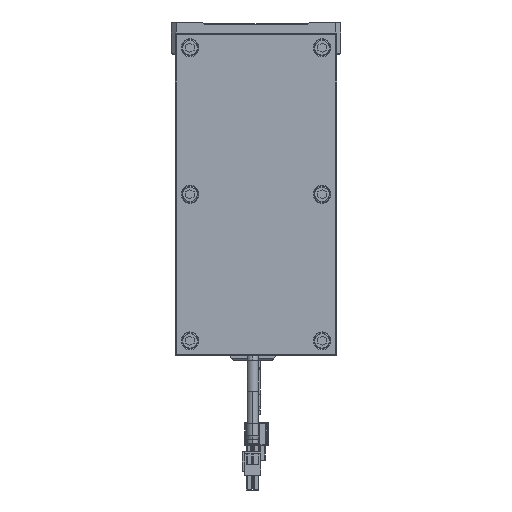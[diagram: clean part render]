
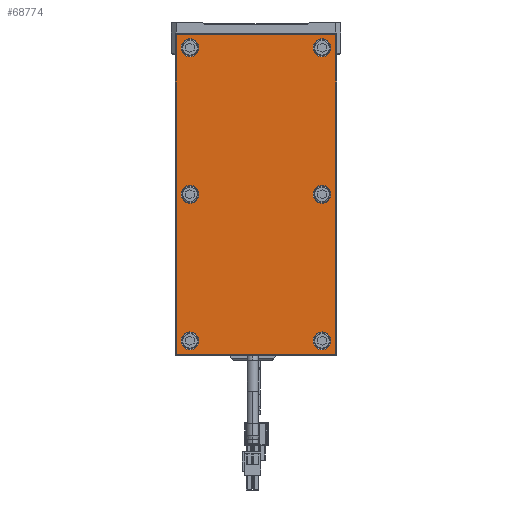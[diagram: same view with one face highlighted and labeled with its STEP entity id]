
A CAD part, front view. The second image highlights one B-rep face of the part: STEP entity #68774.
In plain terms, the highlighted planar face has unit normal (0, -1, 0).
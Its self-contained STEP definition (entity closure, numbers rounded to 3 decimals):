
#67363=CARTESIAN_POINT('',(99.,-7.,-49.));
#67364=DIRECTION('',(0.,-1.,0.));
#67365=DIRECTION('',(0.,0.,-1.));
#67366=AXIS2_PLACEMENT_3D('',#67363,#67364,#67365);
#67368=DIRECTION('',(1.,0.,0.));
#67369=VECTOR('',#67368,198.);
#67370=CARTESIAN_POINT('',(-99.,-7.,
-49.5));
#67371=LINE('',#67370,#67369);
#67372=CARTESIAN_POINT('',(-99.,-7.,-49.));
#67373=DIRECTION('',(0.,-1.,0.));
#67374=DIRECTION('',(-1.,0.,0.));
#67375=AXIS2_PLACEMENT_3D('',#67372,#67373,#67374);
#67377=DIRECTION('',(0.,0.,-1.));
#67378=VECTOR('',#67377,98.);
#67379=CARTESIAN_POINT('',(-99.5,-7.,
49.));
#67380=LINE('',#67379,#67378);
#67381=CARTESIAN_POINT('',(-99.,-7.,49.));
#67382=DIRECTION('',(0.,-1.,0.));
#67383=DIRECTION('',(0.,0.,1.));
#67384=AXIS2_PLACEMENT_3D('',#67381,#67382,#67383);
#67386=DIRECTION('',(-1.,0.,0.));
#67387=VECTOR('',#67386,198.);
#67388=CARTESIAN_POINT('',(99.,-7.,
49.5));
#67389=LINE('',#67388,#67387);
#67390=CARTESIAN_POINT('',(99.,-7.,49.));
#67391=DIRECTION('',(0.,-1.,0.));
#67392=DIRECTION('',(1.,0.,0.));
#67393=AXIS2_PLACEMENT_3D('',#67390,#67391,#67392);
#67395=DIRECTION('',(0.,0.,1.));
#67396=VECTOR('',#67395,98.);
#67397=CARTESIAN_POINT('',(99.5,-7.,
-49.));
#67398=LINE('',#67397,#67396);
#67399=CARTESIAN_POINT('',(-91.,-7.,-41.));
#67400=DIRECTION('',(0.,1.,0.));
#67401=DIRECTION('',(1.,0.,0.));
#67402=AXIS2_PLACEMENT_3D('',#67399,#67400,#67401);
#67404=CARTESIAN_POINT('',(-91.,-7.,-41.));
#67405=DIRECTION('',(0.,1.,0.));
#67406=DIRECTION('',(-1.,0.,0.));
#67407=AXIS2_PLACEMENT_3D('',#67404,#67405,#67406);
#67409=CARTESIAN_POINT('',(0.,-7.,-41.));
#67410=DIRECTION('',(0.,1.,0.));
#67411=DIRECTION('',(1.,0.,0.));
#67412=AXIS2_PLACEMENT_3D('',#67409,#67410,#67411);
#67414=CARTESIAN_POINT('',(0.,-7.,-41.));
#67415=DIRECTION('',(0.,1.,0.));
#67416=DIRECTION('',(-1.,0.,0.));
#67417=AXIS2_PLACEMENT_3D('',#67414,#67415,#67416);
#67419=CARTESIAN_POINT('',(91.,-7.,-41.));
#67420=DIRECTION('',(0.,1.,0.));
#67421=DIRECTION('',(1.,0.,0.));
#67422=AXIS2_PLACEMENT_3D('',#67419,#67420,#67421);
#67424=CARTESIAN_POINT('',(91.,-7.,-41.));
#67425=DIRECTION('',(0.,1.,0.));
#67426=DIRECTION('',(-1.,0.,0.));
#67427=AXIS2_PLACEMENT_3D('',#67424,#67425,#67426);
#67429=CARTESIAN_POINT('',(91.,-7.,41.));
#67430=DIRECTION('',(0.,1.,0.));
#67431=DIRECTION('',(1.,0.,0.));
#67432=AXIS2_PLACEMENT_3D('',#67429,#67430,#67431);
#67434=CARTESIAN_POINT('',(91.,-7.,41.));
#67435=DIRECTION('',(0.,1.,0.));
#67436=DIRECTION('',(-1.,0.,0.));
#67437=AXIS2_PLACEMENT_3D('',#67434,#67435,#67436);
#67439=CARTESIAN_POINT('',(0.,-7.,41.));
#67440=DIRECTION('',(0.,1.,0.));
#67441=DIRECTION('',(1.,0.,0.));
#67442=AXIS2_PLACEMENT_3D('',#67439,#67440,#67441);
#67444=CARTESIAN_POINT('',(0.,-7.,41.));
#67445=DIRECTION('',(0.,1.,0.));
#67446=DIRECTION('',(-1.,0.,0.));
#67447=AXIS2_PLACEMENT_3D('',#67444,#67445,#67446);
#67449=CARTESIAN_POINT('',(-91.,-7.,41.));
#67450=DIRECTION('',(0.,1.,0.));
#67451=DIRECTION('',(1.,0.,0.));
#67452=AXIS2_PLACEMENT_3D('',#67449,#67450,#67451);
#67454=CARTESIAN_POINT('',(-91.,-7.,41.));
#67455=DIRECTION('',(0.,1.,0.));
#67456=DIRECTION('',(-1.,0.,0.));
#67457=AXIS2_PLACEMENT_3D('',#67454,#67455,#67456);
#68515=CARTESIAN_POINT('',(99.,-7.,-49.5));
#68516=CARTESIAN_POINT('',(99.5,-7.,-49.));
#68517=VERTEX_POINT('',#68515);
#68518=VERTEX_POINT('',#68516);
#68523=CARTESIAN_POINT('',(99.5,-7.,
49.));
#68524=VERTEX_POINT('',#68523);
#68527=CARTESIAN_POINT('',(99.,-7.,49.5));
#68528=VERTEX_POINT('',#68527);
#68531=CARTESIAN_POINT('',(-99.,-7.,
49.5));
#68532=VERTEX_POINT('',#68531);
#68535=CARTESIAN_POINT('',(-99.5,-7.,49.));
#68536=VERTEX_POINT('',#68535);
#68539=CARTESIAN_POINT('',(-99.5,-7.,
-49.));
#68540=VERTEX_POINT('',#68539);
#68543=CARTESIAN_POINT('',(-99.,-7.,-49.5));
#68544=VERTEX_POINT('',#68543);
#68571=CARTESIAN_POINT('',(-85.45,-7.,-41.));
#68572=CARTESIAN_POINT('',(-96.55,-7.,-41.));
#68573=VERTEX_POINT('',#68571);
#68574=VERTEX_POINT('',#68572);
#68587=CARTESIAN_POINT('',(5.55,-7.,-41.));
#68588=CARTESIAN_POINT('',(-5.55,-7.,-41.));
#68589=VERTEX_POINT('',#68587);
#68590=VERTEX_POINT('',#68588);
#68611=CARTESIAN_POINT('',(96.55,-7.,-41.));
#68612=CARTESIAN_POINT('',(85.45,-7.,-41.));
#68613=VERTEX_POINT('',#68611);
#68614=VERTEX_POINT('',#68612);
#68627=CARTESIAN_POINT('',(96.55,-7.,41.));
#68628=CARTESIAN_POINT('',(85.45,-7.,41.));
#68629=VERTEX_POINT('',#68627);
#68630=VERTEX_POINT('',#68628);
#68635=CARTESIAN_POINT('',(5.55,-7.,41.));
#68636=CARTESIAN_POINT('',(-5.55,-7.,41.));
#68637=VERTEX_POINT('',#68635);
#68638=VERTEX_POINT('',#68636);
#68659=CARTESIAN_POINT('',(-85.45,-7.,41.));
#68660=CARTESIAN_POINT('',(-96.55,-7.,41.));
#68661=VERTEX_POINT('',#68659);
#68662=VERTEX_POINT('',#68660);
#68715=CARTESIAN_POINT('',(0.,-7.,0.));
#68716=DIRECTION('',(0.,1.,0.));
#68717=DIRECTION('',(1.,0.,0.));
#68718=AXIS2_PLACEMENT_3D('',#68715,#68716,#68717);
#68719=PLANE('',#68718);
#68721=ORIENTED_EDGE('',*,*,#68720,.F.);
#68723=ORIENTED_EDGE('',*,*,#68722,.F.);
#68725=ORIENTED_EDGE('',*,*,#68724,.F.);
#68727=ORIENTED_EDGE('',*,*,#68726,.F.);
#68729=ORIENTED_EDGE('',*,*,#68728,.F.);
#68731=ORIENTED_EDGE('',*,*,#68730,.F.);
#68733=ORIENTED_EDGE('',*,*,#68732,.F.);
#68735=ORIENTED_EDGE('',*,*,#68734,.F.);
#68736=EDGE_LOOP('',(#68721,#68723,#68725,#68727,#68729,#68731,#68733,#68735));
#68737=FACE_OUTER_BOUND('',#68736,.F.);
#68739=ORIENTED_EDGE('',*,*,#68738,.F.);
#68741=ORIENTED_EDGE('',*,*,#68740,.F.);
#68742=EDGE_LOOP('',(#68739,#68741));
#68743=FACE_BOUND('',#68742,.F.);
#68745=ORIENTED_EDGE('',*,*,#68744,.F.);
#68747=ORIENTED_EDGE('',*,*,#68746,.F.);
#68748=EDGE_LOOP('',(#68745,#68747));
#68749=FACE_BOUND('',#68748,.F.);
#68751=ORIENTED_EDGE('',*,*,#68750,.F.);
#68753=ORIENTED_EDGE('',*,*,#68752,.F.);
#68754=EDGE_LOOP('',(#68751,#68753));
#68755=FACE_BOUND('',#68754,.F.);
#68757=ORIENTED_EDGE('',*,*,#68756,.F.);
#68759=ORIENTED_EDGE('',*,*,#68758,.F.);
#68760=EDGE_LOOP('',(#68757,#68759));
#68761=FACE_BOUND('',#68760,.F.);
#68763=ORIENTED_EDGE('',*,*,#68762,.F.);
#68765=ORIENTED_EDGE('',*,*,#68764,.F.);
#68766=EDGE_LOOP('',(#68763,#68765));
#68767=FACE_BOUND('',#68766,.F.);
#68769=ORIENTED_EDGE('',*,*,#68768,.F.);
#68771=ORIENTED_EDGE('',*,*,#68770,.F.);
#68772=EDGE_LOOP('',(#68769,#68771));
#68773=FACE_BOUND('',#68772,.F.);
#68774=ADVANCED_FACE('',(#68737,#68743,#68749,#68755,#68761,#68767,#68773),
#68719,.F.);
#67367=CIRCLE('',#67366,0.5);
#67376=CIRCLE('',#67375,0.5);
#67385=CIRCLE('',#67384,0.5);
#67394=CIRCLE('',#67393,0.5);
#67403=CIRCLE('',#67402,5.55);
#67408=CIRCLE('',#67407,5.55);
#67413=CIRCLE('',#67412,5.55);
#67418=CIRCLE('',#67417,5.55);
#67423=CIRCLE('',#67422,5.55);
#67428=CIRCLE('',#67427,5.55);
#67433=CIRCLE('',#67432,5.55);
#67438=CIRCLE('',#67437,5.55);
#67443=CIRCLE('',#67442,5.55);
#67448=CIRCLE('',#67447,5.55);
#67453=CIRCLE('',#67452,5.55);
#67458=CIRCLE('',#67457,5.55);
#68720=EDGE_CURVE('',#68517,#68518,#67367,.T.);
#68722=EDGE_CURVE('',#68544,#68517,#67371,.T.);
#68724=EDGE_CURVE('',#68540,#68544,#67376,.T.);
#68726=EDGE_CURVE('',#68536,#68540,#67380,.T.);
#68728=EDGE_CURVE('',#68532,#68536,#67385,.T.);
#68730=EDGE_CURVE('',#68528,#68532,#67389,.T.);
#68732=EDGE_CURVE('',#68524,#68528,#67394,.T.);
#68734=EDGE_CURVE('',#68518,#68524,#67398,.T.);
#68738=EDGE_CURVE('',#68573,#68574,#67403,.T.);
#68740=EDGE_CURVE('',#68574,#68573,#67408,.T.);
#68744=EDGE_CURVE('',#68589,#68590,#67413,.T.);
#68746=EDGE_CURVE('',#68590,#68589,#67418,.T.);
#68750=EDGE_CURVE('',#68613,#68614,#67423,.T.);
#68752=EDGE_CURVE('',#68614,#68613,#67428,.T.);
#68756=EDGE_CURVE('',#68629,#68630,#67433,.T.);
#68758=EDGE_CURVE('',#68630,#68629,#67438,.T.);
#68762=EDGE_CURVE('',#68637,#68638,#67443,.T.);
#68764=EDGE_CURVE('',#68638,#68637,#67448,.T.);
#68768=EDGE_CURVE('',#68661,#68662,#67453,.T.);
#68770=EDGE_CURVE('',#68662,#68661,#67458,.T.);
